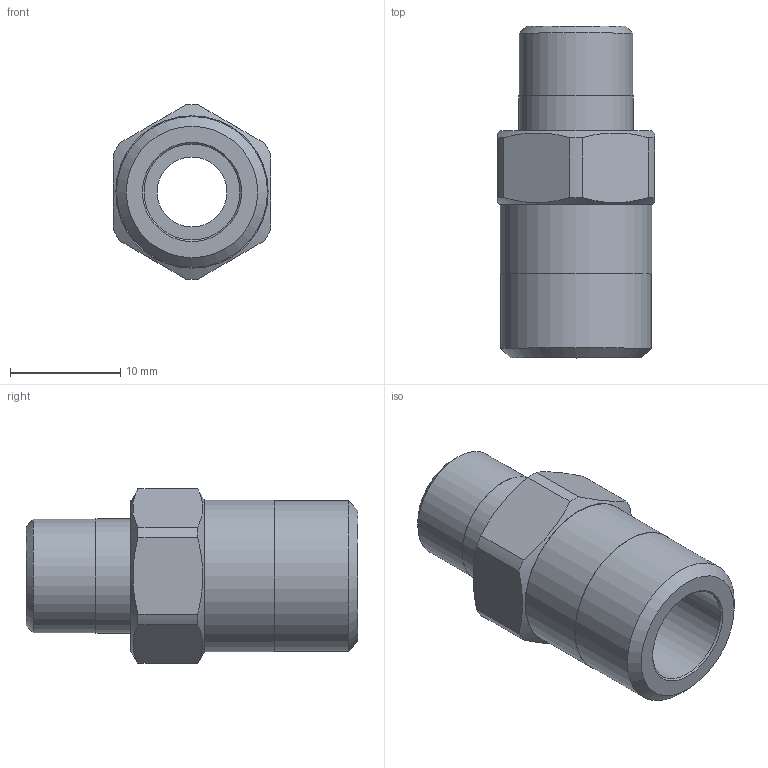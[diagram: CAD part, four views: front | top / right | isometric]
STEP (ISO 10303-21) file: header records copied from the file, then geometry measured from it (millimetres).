
FILE_DESCRIPTION(/* description */ (''),/* implementation_level */ '2;1');
FILE_NAME(/* name */ 'C:/Users/drich/Desktop/MR14-2 v1.step',/* time_stamp */ '2020-02-09T10:57:41-06:00',/* author */ (''),/* organization */ (''),/* preprocessor_version */ 'ST-DEVELOPER v18',/* originating_system */ 'Autodesk Translation Framework v8.12.0.6',/* authorisation */ '');
FILE_SCHEMA (('AUTOMOTIVE_DESIGN { 1 0 10303 214 3 1 1 }'));
Length unit declared in the file: inch
Products named in the file (1): MR14-2
Bounding box: 14.27 x 30.15 x 15.87 mm (x, y, z)
Volume: 2568.4 mm3; surface area: 2184.9 mm2
Topology: 1 solids, 1 shells, 31 faces, 80 edges, 56 vertices
Faces by surface type: plane 13, cylinder 12, cone 6
Full cylindrical faces by diameter (mm): 6.35 x1, 8.712 x1, 10.312 x1, 10.363 x1, 13.716 x1, 13.767 x1
Entity records: 1016 total; most frequent: CARTESIAN_POINT 192, DIRECTION 176, ORIENTED_EDGE 160, EDGE_CURVE 80, AXIS2_PLACEMENT_3D 76, VERTEX_POINT 56, CIRCLE 44, EDGE_LOOP 38
